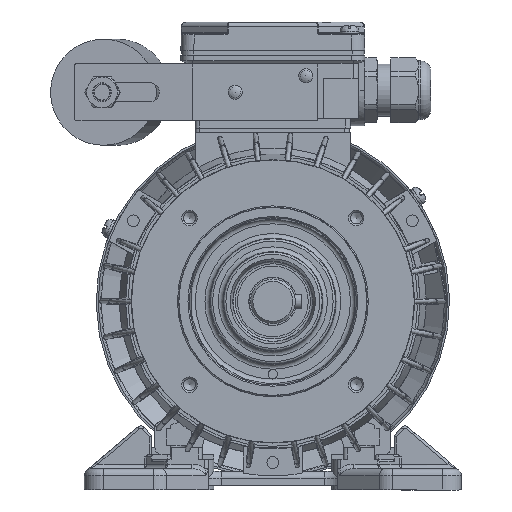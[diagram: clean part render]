
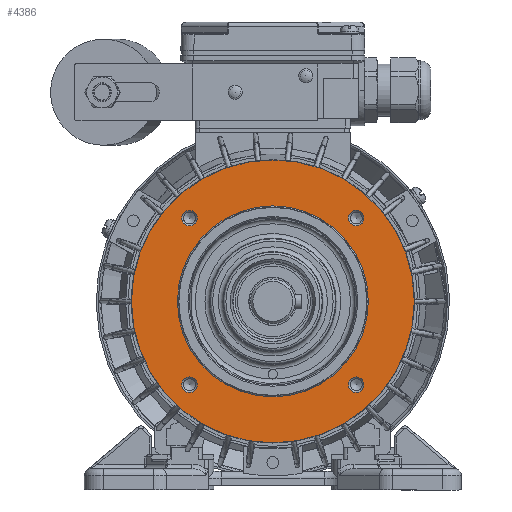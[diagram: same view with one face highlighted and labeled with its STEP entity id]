
A CAD part, left-side view. The second image highlights one B-rep face of the part: STEP entity #4386.
In plain terms, the highlighted planar face has unit normal (-1, 0, 0) as drawn and (0, -1, 0) by its records, which use the part's own axes.
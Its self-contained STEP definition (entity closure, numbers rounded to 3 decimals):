
#4386 = ADVANCED_FACE( '', ( #10685, #10686, #10687, #10688, #10689, #10690 ), #10691, .T. );
#10685 = FACE_BOUND( '', #22974, .T. );
#10686 = FACE_BOUND( '', #22975, .T. );
#10687 = FACE_BOUND( '', #22976, .T. );
#10688 = FACE_BOUND( '', #22977, .T. );
#10689 = FACE_BOUND( '', #22978, .T. );
#10690 = FACE_OUTER_BOUND( '', #22979, .T. );
#10691 = PLANE( '', #22980 );
#22974 = EDGE_LOOP( '', ( #53615 ) );
#22975 = EDGE_LOOP( '', ( #53616 ) );
#22976 = EDGE_LOOP( '', ( #53617 ) );
#22977 = EDGE_LOOP( '', ( #53618 ) );
#22978 = EDGE_LOOP( '', ( #53619 ) );
#22979 = EDGE_LOOP( '', ( #53620 ) );
#22980 = AXIS2_PLACEMENT_3D( '', #53621, #53622, #53623 );
#53615 = ORIENTED_EDGE( '', *, *, #77940, .T. );
#53616 = ORIENTED_EDGE( '', *, *, #77941, .T. );
#53617 = ORIENTED_EDGE( '', *, *, #76219, .T. );
#53618 = ORIENTED_EDGE( '', *, *, #77942, .T. );
#53619 = ORIENTED_EDGE( '', *, *, #77943, .T. );
#53620 = ORIENTED_EDGE( '', *, *, #77944, .T. );
#53621 = CARTESIAN_POINT( '', ( 0., 3., 40. ) );
#53622 = DIRECTION( '', ( 0., -1., 0. ) );
#53623 = DIRECTION( '', ( 0., 0., -1. ) );
#76219 = EDGE_CURVE( '', #86966, #86966, #86967, .F. );
#77940 = EDGE_CURVE( '', #89969, #89969, #89970, .F. );
#77941 = EDGE_CURVE( '', #89971, #89971, #89972, .F. );
#77942 = EDGE_CURVE( '', #89973, #89973, #89974, .F. );
#77943 = EDGE_CURVE( '', #89975, #89975, #89976, .F. );
#77944 = EDGE_CURVE( '', #89977, #89977, #89978, .T. );
#86966 = VERTEX_POINT( '', #103558 );
#86967 = CIRCLE( '', #103559, 3.3 );
#89969 = VERTEX_POINT( '', #110882 );
#89970 = CIRCLE( '', #110883, 3.3 );
#89971 = VERTEX_POINT( '', #110884 );
#89972 = CIRCLE( '', #110885, 3.3 );
#89973 = VERTEX_POINT( '', #110886 );
#89974 = CIRCLE( '', #110887, 3.3 );
#89975 = VERTEX_POINT( '', #110888 );
#89976 = CIRCLE( '', #110889, 40.5 );
#89977 = VERTEX_POINT( '', #110890 );
#89978 = CIRCLE( '', #110891, 60. );
#103558 = CARTESIAN_POINT( '', ( 35.355, 3., 32.055 ) );
#103559 = AXIS2_PLACEMENT_3D( '', #140927, #140928, #140929 );
#110882 = CARTESIAN_POINT( '', ( -35.355, 3., -38.655 ) );
#110883 = AXIS2_PLACEMENT_3D( '', #143018, #143019, #143020 );
#110884 = CARTESIAN_POINT( '', ( 35.355, 3., -38.655 ) );
#110885 = AXIS2_PLACEMENT_3D( '', #143021, #143022, #143023 );
#110886 = CARTESIAN_POINT( '', ( -35.355, 3., 32.055 ) );
#110887 = AXIS2_PLACEMENT_3D( '', #143024, #143025, #143026 );
#110888 = CARTESIAN_POINT( '', ( 0., 3., -40.5 ) );
#110889 = AXIS2_PLACEMENT_3D( '', #143027, #143028, #143029 );
#110890 = CARTESIAN_POINT( '', ( 0., 3., -60. ) );
#110891 = AXIS2_PLACEMENT_3D( '', #143030, #143031, #143032 );
#140927 = CARTESIAN_POINT( '', ( 35.355, 3., 35.355 ) );
#140928 = DIRECTION( '', ( 0., -1., 0. ) );
#140929 = DIRECTION( '', ( 0., 0., -1. ) );
#143018 = CARTESIAN_POINT( '', ( -35.355, 3., -35.355 ) );
#143019 = DIRECTION( '', ( 0., -1., 0. ) );
#143020 = DIRECTION( '', ( 0., 0., -1. ) );
#143021 = CARTESIAN_POINT( '', ( 35.355, 3., -35.355 ) );
#143022 = DIRECTION( '', ( 0., -1., 0. ) );
#143023 = DIRECTION( '', ( 0., 0., -1. ) );
#143024 = CARTESIAN_POINT( '', ( -35.355, 3., 35.355 ) );
#143025 = DIRECTION( '', ( 0., -1., 0. ) );
#143026 = DIRECTION( '', ( 0., 0., -1. ) );
#143027 = CARTESIAN_POINT( '', ( 0., 3., 0. ) );
#143028 = DIRECTION( '', ( 0., -1., 0. ) );
#143029 = DIRECTION( '', ( 0., 0., -1. ) );
#143030 = CARTESIAN_POINT( '', ( 0., 3., 0. ) );
#143031 = DIRECTION( '', ( 0., -1., 0. ) );
#143032 = DIRECTION( '', ( 0., 0., -1. ) );
